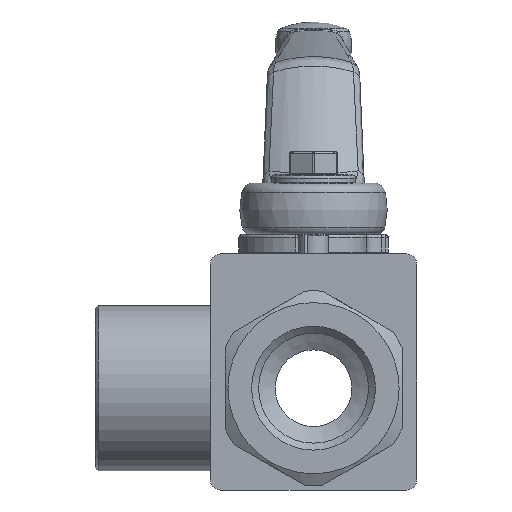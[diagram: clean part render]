
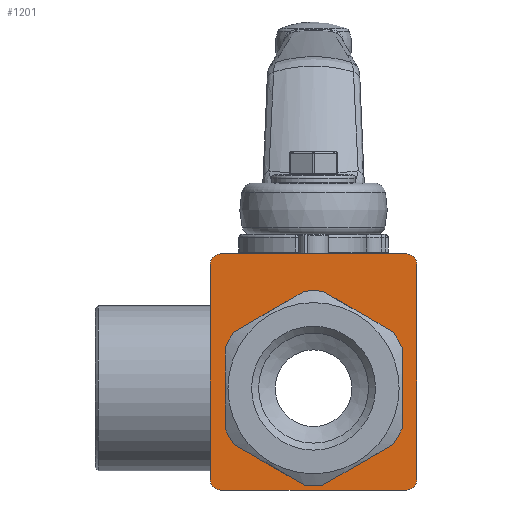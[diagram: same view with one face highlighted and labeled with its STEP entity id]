
A CAD part, front view. The second image highlights one B-rep face of the part: STEP entity #1201.
In plain terms, the highlighted planar face has unit normal (0, -1, 0).
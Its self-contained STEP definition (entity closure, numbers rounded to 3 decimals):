
#1201 = ADVANCED_FACE( '', ( #2374, #2375 ), #2376, .T. );
#2374 = FACE_BOUND( '', #4588, .T. );
#2375 = FACE_OUTER_BOUND( '', #4589, .T. );
#2376 = PLANE( '', #4590 );
#4588 = EDGE_LOOP( '', ( #7438 ) );
#4589 = EDGE_LOOP( '', ( #7439, #7440, #7441, #7442, #7443, #7444, #7445, #7446 ) );
#4590 = AXIS2_PLACEMENT_3D( '', #7447, #7448, #7449 );
#7438 = ORIENTED_EDGE( '', *, *, #8828, .F. );
#7439 = ORIENTED_EDGE( '', *, *, #7730, .T. );
#7440 = ORIENTED_EDGE( '', *, *, #8063, .T. );
#7441 = ORIENTED_EDGE( '', *, *, #8280, .T. );
#7442 = ORIENTED_EDGE( '', *, *, #8706, .T. );
#7443 = ORIENTED_EDGE( '', *, *, #8814, .T. );
#7444 = ORIENTED_EDGE( '', *, *, #8829, .T. );
#7445 = ORIENTED_EDGE( '', *, *, #8514, .T. );
#7446 = ORIENTED_EDGE( '', *, *, #8770, .T. );
#7447 = CARTESIAN_POINT( '', ( -17.5, -24.1, -17.25 ) );
#7448 = DIRECTION( '', ( 0., -1., 0. ) );
#7449 = DIRECTION( '', ( 0., 0., -1. ) );
#7730 = EDGE_CURVE( '', #8885, #8883, #8886, .T. );
#8063 = EDGE_CURVE( '', #8883, #9450, #9451, .T. );
#8280 = EDGE_CURVE( '', #9450, #9781, #9782, .T. );
#8514 = EDGE_CURVE( '', #10100, #10098, #10101, .T. );
#8706 = EDGE_CURVE( '', #9781, #10335, #10336, .T. );
#8770 = EDGE_CURVE( '', #10098, #8885, #10415, .T. );
#8814 = EDGE_CURVE( '', #10335, #10462, #10464, .T. );
#8828 = EDGE_CURVE( '', #10480, #10480, #10481, .T. );
#8829 = EDGE_CURVE( '', #10462, #10100, #10482, .T. );
#8883 = VERTEX_POINT( '', #10540 );
#8885 = VERTEX_POINT( '', #10543 );
#8886 = LINE( '', #10544, #10545 );
#9450 = VERTEX_POINT( '', #11716 );
#9451 = CIRCLE( '', #11717, 1.8 );
#9781 = VERTEX_POINT( '', #12567 );
#9782 = LINE( '', #12568, #12569 );
#10098 = VERTEX_POINT( '', #13076 );
#10100 = VERTEX_POINT( '', #13079 );
#10101 = LINE( '', #13080, #13081 );
#10335 = VERTEX_POINT( '', #13534 );
#10336 = CIRCLE( '', #13535, 1.8 );
#10415 = CIRCLE( '', #13661, 1.8 );
#10462 = VERTEX_POINT( '', #13749 );
#10464 = LINE( '', #13752, #13753 );
#10480 = VERTEX_POINT( '', #13770 );
#10481 = CIRCLE( '', #13771, 15. );
#10482 = CIRCLE( '', #13772, 1.8 );
#10540 = CARTESIAN_POINT( '', ( 17.5, -24.1, 20.95 ) );
#10543 = CARTESIAN_POINT( '', ( 17.5, -24.1, -15.45 ) );
#10544 = CARTESIAN_POINT( '', ( 17.5, -24.1, -17.25 ) );
#10545 = VECTOR( '', #13826, 1000. );
#11716 = CARTESIAN_POINT( '', ( 15.7, -24.1, 22.75 ) );
#11717 = AXIS2_PLACEMENT_3D( '', #14296, #14297, #14298 );
#12567 = CARTESIAN_POINT( '', ( -15.7, -24.1, 22.75 ) );
#12568 = CARTESIAN_POINT( '', ( 17.5, -24.1, 22.75 ) );
#12569 = VECTOR( '', #14571, 1000. );
#13076 = CARTESIAN_POINT( '', ( 15.7, -24.1, -17.25 ) );
#13079 = CARTESIAN_POINT( '', ( -15.7, -24.1, -17.25 ) );
#13080 = CARTESIAN_POINT( '', ( -17.5, -24.1, -17.25 ) );
#13081 = VECTOR( '', #14884, 1000. );
#13534 = CARTESIAN_POINT( '', ( -17.5, -24.1, 20.95 ) );
#13535 = AXIS2_PLACEMENT_3D( '', #15123, #15124, #15125 );
#13661 = AXIS2_PLACEMENT_3D( '', #15190, #15191, #15192 );
#13749 = CARTESIAN_POINT( '', ( -17.5, -24.1, -15.45 ) );
#13752 = CARTESIAN_POINT( '', ( -17.5, -24.1, 22.75 ) );
#13753 = VECTOR( '', #15225, 1000. );
#13770 = CARTESIAN_POINT( '', ( 15., -24.1, 0. ) );
#13771 = AXIS2_PLACEMENT_3D( '', #15233, #15234, #15235 );
#13772 = AXIS2_PLACEMENT_3D( '', #15236, #15237, #15238 );
#13826 = DIRECTION( '', ( 0., 0., 1. ) );
#14296 = CARTESIAN_POINT( '', ( 15.7, -24.1, 20.95 ) );
#14297 = DIRECTION( '', ( 0., -1., 0. ) );
#14298 = DIRECTION( '', ( 0., 0., -1. ) );
#14571 = DIRECTION( '', ( -1., 0., 0. ) );
#14884 = DIRECTION( '', ( 1., 0., 0. ) );
#15123 = CARTESIAN_POINT( '', ( -15.7, -24.1, 20.95 ) );
#15124 = DIRECTION( '', ( 0., -1., 0. ) );
#15125 = DIRECTION( '', ( 0., 0., -1. ) );
#15190 = CARTESIAN_POINT( '', ( 15.7, -24.1, -15.45 ) );
#15191 = DIRECTION( '', ( 0., -1., 0. ) );
#15192 = DIRECTION( '', ( 0., 0., -1. ) );
#15225 = DIRECTION( '', ( 0., 0., -1. ) );
#15233 = CARTESIAN_POINT( '', ( 0., -24.1, 0. ) );
#15234 = DIRECTION( '', ( 0., -1., 0. ) );
#15235 = DIRECTION( '', ( 1., 0., 0. ) );
#15236 = CARTESIAN_POINT( '', ( -15.7, -24.1, -15.45 ) );
#15237 = DIRECTION( '', ( 0., -1., 0. ) );
#15238 = DIRECTION( '', ( 0., 0., -1. ) );
